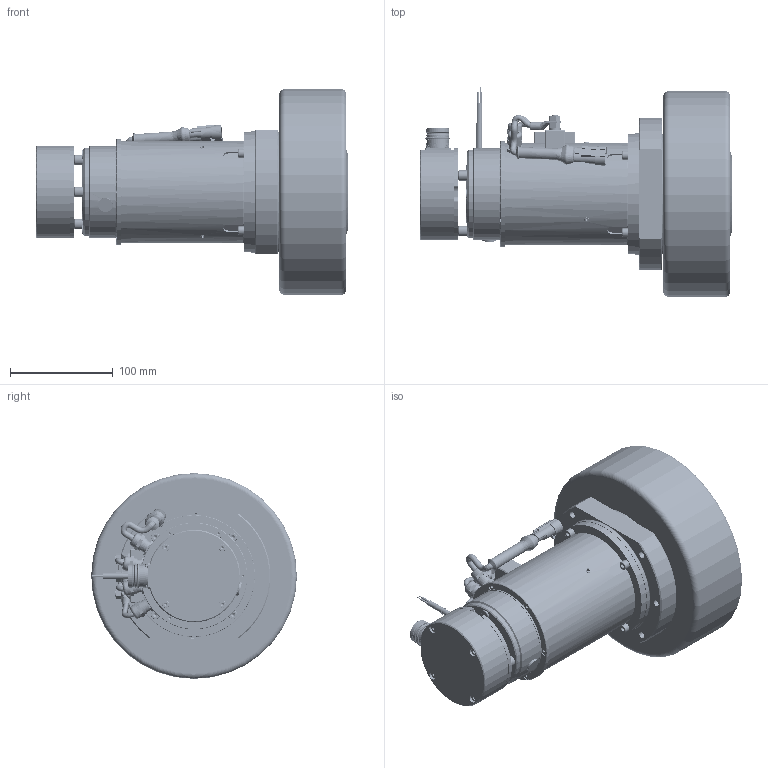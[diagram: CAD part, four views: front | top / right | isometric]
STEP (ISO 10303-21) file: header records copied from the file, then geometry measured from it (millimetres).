
FILE_DESCRIPTION(/* description */ (''),/* implementation_level */ '2;1');
FILE_NAME(/* name */ 'Z:\SITO WEB 2023\Dual Drive\MRH116\MRH116 PMAC D.200 mm\MRH116.BL.D200.stp',/* time_stamp */ '2023-09-21T15:01:24+02:00',/* author */ ('cad3'),/* organization */ (''),/* preprocessor_version */ 'ST-DEVELOPER v18.1',/* originating_system */ 'Autodesk Inventor 2022',/* authorisation */ '');
FILE_SCHEMA (('AUTOMOTIVE_DESIGN { 1 0 10303 214 3 1 1 }'));
Products named in the file (1): MRH116.BL.D200
Bounding box: 303 x 204 x 199.99 mm (x, y, z)
Volume: 2703702.4 mm3; surface area: 511160.1 mm2
Topology: 8 solids, 64 shells, 7680 faces, 21580 edges, 13624 vertices
Faces by surface type: plane 5624, cylinder 1069, cone 507, bspline 350, torus 124, sphere 6
Full cylindrical faces by diameter (mm): 0.75 x2, 0.9 x17, 1.7 x4, 2 x3, 2.459 x2, 2.75 x2, 2.9 x6, 3.2 x4, 3.242 x20, 3.5 x2, 4 x28, 4.134 x4, 4.2 x11, 4.3 x9, 4.5 x19, 4.917 x9, 5 x23, 5.2 x10, 5.3 x4, 5.4 x3, 5.5 x5, 5.917 x3, 6 x23, 6.2 x6, 6.4 x6, 6.5 x16, 6.647 x6, 7 x16, 7.5 x14, 7.64 x9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
Entity records: 263880 total; most frequent: CARTESIAN_POINT 57321, ORIENTED_EDGE 42978, DIRECTION 40838, EDGE_CURVE 21489, AXIS2_PLACEMENT_3D 13884, VERTEX_POINT 13622, LINE 13070, VECTOR 13070
